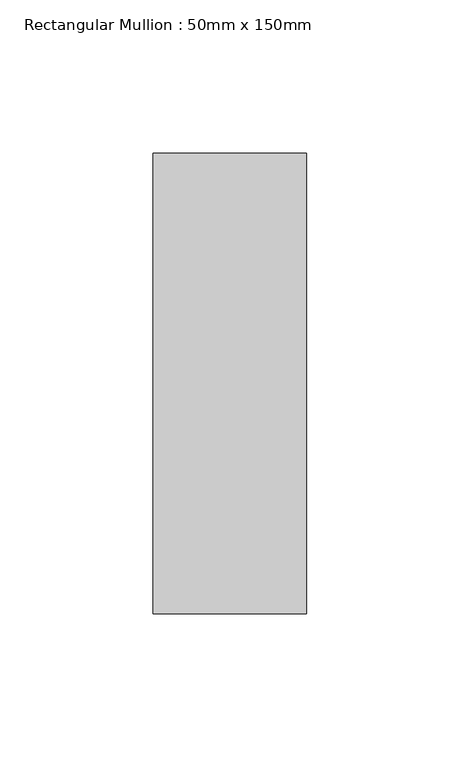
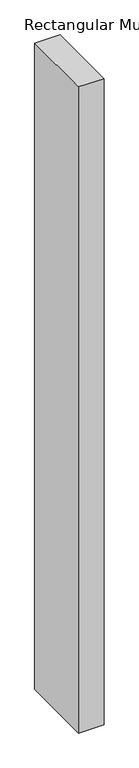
"""IFC4 building model written with IfcOpenShell, lengths in millimetres: member geometry, Rectangular Mullion : 50mm x 150mm."""

from ifc_helpers import new_model, si_unit, frame, origin, place, context, project, spatial, polyline, outline, extrude, source, transform, mapped, element, save


def rectangular_mullion_50mm_x_150mm_b2cdd733(model_context):
    return source(origin(), model_context, "Body", "SweptSolid", [
        extrude(outline(polyline([(0.0, 75.0), (0.0, -75.0), (-50.0, -75.0), (-50.0, 75.0), (0.0, 75.0)])), frame((0.0, 0.0, -1346.6199622), z_axis=(0.0, 0.0, 1.0), x_axis=(1.0, 0.0, 0.0)), (0.0, 0.0, 1.0), 1346.6199622),
    ])


if __name__ == "__main__":
    model = new_model("IFC4")
    model_context = context("Model", 3, world=origin())
    ifc_project = project(units=[si_unit("LENGTHUNIT", "METRE", prefix="MILLI")], contexts=[model_context])
    site = spatial("IfcSite", under=ifc_project)
    building = spatial("IfcBuilding", under=site)
    placement = place(None, origin())
    rectangular_mullion_50mm_x_150mm_shape = rectangular_mullion_50mm_x_150mm_b2cdd733(model_context)
    element("IfcMember", 1, ObjectType="Rectangular Mullion : 50mm x 150mm", at=placement, inside=building, context=model_context, shape_type="MappedRepresentation", body=[
        mapped(rectangular_mullion_50mm_x_150mm_shape, transform((0.0, 0.0, 0.0), x_axis=(1.0, 0.0, 0.0), y_axis=(0.0, 1.0, 0.0), z_axis=(0.0, 0.0, 1.0))),
    ])
    save(model, "model.ifc")
